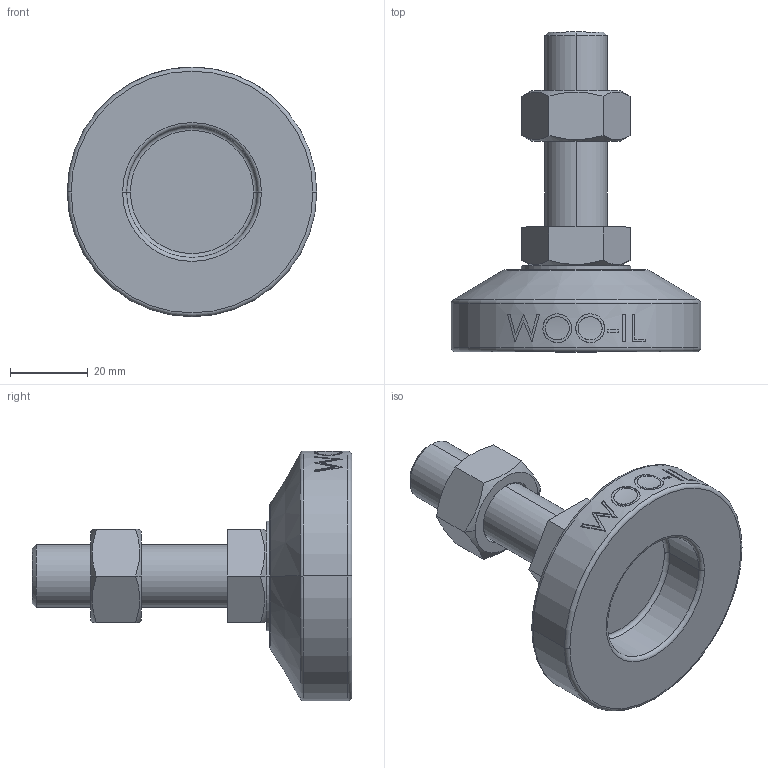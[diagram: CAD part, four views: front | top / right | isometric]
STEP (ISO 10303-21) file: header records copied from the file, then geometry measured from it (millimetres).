
FILE_DESCRIPTION (( 'STEP AP214' ), '1' );
FILE_NAME ('MFZ64-M16-50.step', '2021-01-15T07:06:43', ( '' ), ( '' ), 'SwSTEP 2.0', 'SolidWorks 2019', '' );
FILE_SCHEMA (( 'AUTOMOTIVE_DESIGN' ));
Length unit declared in the file: millimetre
Products named in the file (2): MFZ64-M16-50
Bounding box: 64 x 82 x 64 mm (x, y, z)
Volume: 66444.7 mm3; surface area: 17110 mm2
Topology: 3 solids, 3 shells, 106 faces, 243 edges, 154 vertices
Faces by surface type: plane 48, cylinder 18, bspline 16, cone 14, torus 10
Entity records: 4520 total; most frequent: CARTESIAN_POINT 2177, ORIENTED_EDGE 486, DIRECTION 439, EDGE_CURVE 243, AXIS2_PLACEMENT_3D 170, VERTEX_POINT 154, EDGE_LOOP 119, ADVANCED_FACE 106
